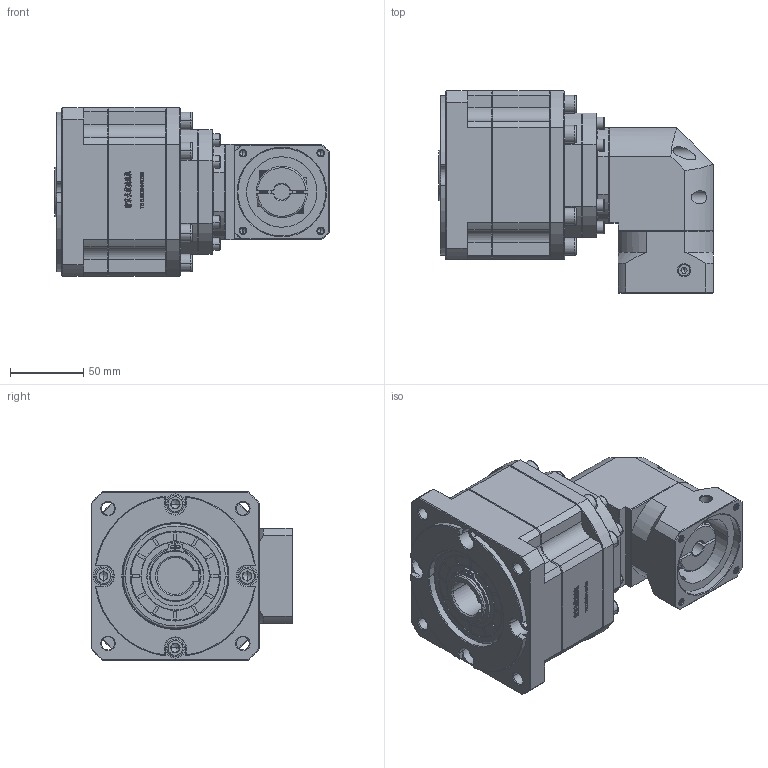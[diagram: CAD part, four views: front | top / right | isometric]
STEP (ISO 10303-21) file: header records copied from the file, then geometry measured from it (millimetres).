
FILE_DESCRIPTION (( 'STEP AP214' ), '1' );
FILE_NAME ('ZB115A-K25-L3-11-60-75-M5.step', '2023-03-03T08:05:30', ( '' ), ( 'Microsoft' ), 'SwSTEP 2.0', 'SolidWorks 2016', '' );
FILE_SCHEMA (( 'AUTOMOTIVE_DESIGN' ));
Length unit declared in the file: millimetre
Products named in the file (1): ZB115A-K25-L3-11-60-75-M5
Bounding box: 187.5 x 137.7 x 115 mm (x, y, z)
Volume: 1522634.4 mm3; surface area: 144277 mm2
Topology: 6 solids, 6 shells, 3183 faces, 8457 edges, 5436 vertices
Faces by surface type: plane 1712, bspline 628, cylinder 452, cone 383, torus 8
Entity records: 165280 total; most frequent: CARTESIAN_POINT 55829, ORIENTED_EDGE 16794, DIRECTION 13086, EDGE_CURVE 8397, LINE 5628, VECTOR 5628, VERTEX_POINT 5436, AXIS2_PLACEMENT_3D 3729
